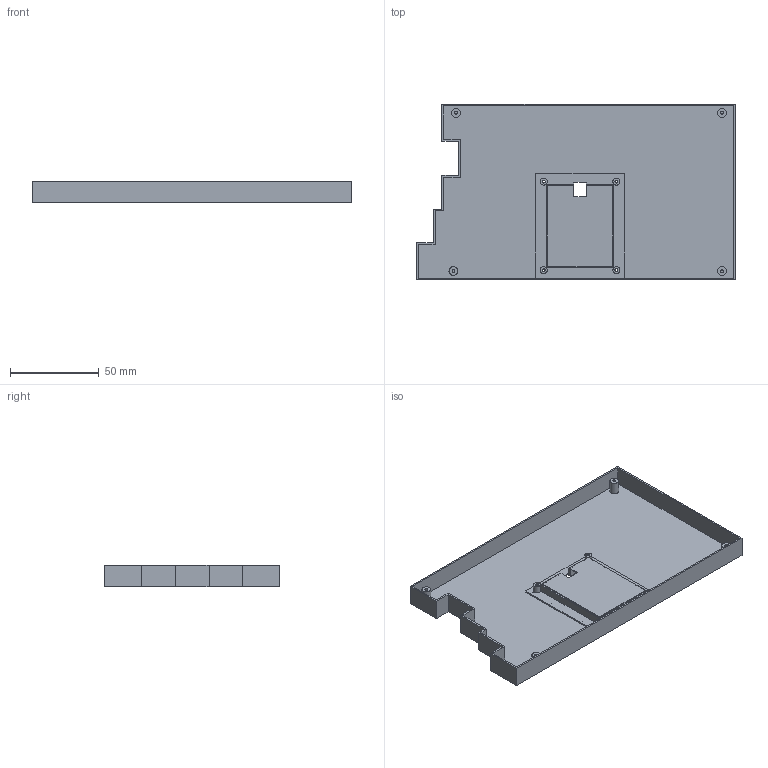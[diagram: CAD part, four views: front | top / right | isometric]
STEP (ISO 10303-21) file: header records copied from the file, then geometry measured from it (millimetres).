
FILE_DESCRIPTION(('Open CASCADE Model'),'2;1');
FILE_NAME('Open CASCADE Shape Model','2026-08-25T11:40:42',('Author'),( 'Open CASCADE'),'Open CASCADE STEP processor 7.9','Open CASCADE 7.9' ,'Unknown');
FILE_SCHEMA(('AUTOMOTIVE_DESIGN { 1 0 10303 214 1 1 1 1 }'));
Length unit declared in the file: millimetre
Products named in the file (1): Open CASCADE STEP translator 7.9 3
Bounding box: 180 x 99.15 x 11.9 mm (x, y, z)
Volume: 23568 mm3; surface area: 48980.5 mm2
Topology: 1 solids, 1 shells, 86 faces, 210 edges, 140 vertices
Faces by surface type: plane 70, cylinder 16
Full cylindrical faces by diameter (mm): 1.6 x8, 4 x4, 5 x4
Entity records: 5328 total; most frequent: CARTESIAN_POINT 1011, DIRECTION 802, LINE 556, VECTOR 556, ORIENTED_EDGE 420, PCURVE 420, DEFINITIONAL_REPRESENTATION 420, EDGE_CURVE 210
